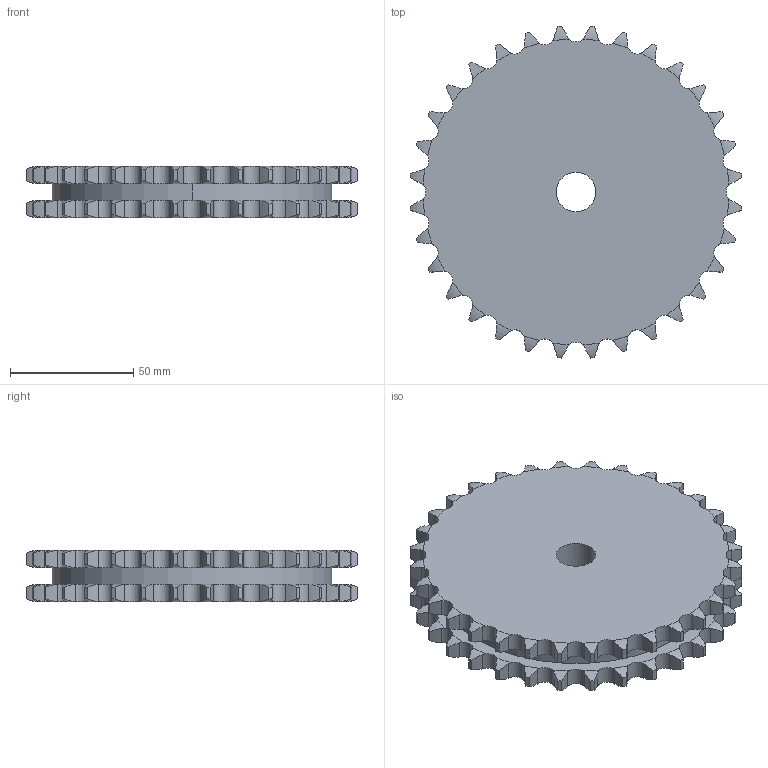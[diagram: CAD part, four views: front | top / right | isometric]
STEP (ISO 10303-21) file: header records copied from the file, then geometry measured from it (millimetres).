
FILE_DESCRIPTION((''),'2;1');
FILE_NAME('500-202-0032_PRT','2021-02-12T',('Brieden'),('Brieden'),'PRO/ENGINEER BY PARAMETRIC TECHNOLOGY CORPORATION, 2010160','PRO/ENGINEER BY PARAMETRIC TECHNOLOGY CORPORATION, 2010160','');
FILE_SCHEMA(('AUTOMOTIVE_DESIGN { 1 0 10303 214 1 1 1 1 }'));
Length unit declared in the file: millimetre
Products named in the file (1): 500-202-0032_PRT
Bounding box: 134.64 x 134.64 x 21 mm (x, y, z)
Volume: 244198.7 mm3; surface area: 41777.2 mm2
Topology: 1 solids, 1 shells, 392 faces, 1164 edges, 776 vertices
Faces by surface type: cylinder 260, torus 128, plane 4
Entity records: 18916 total; most frequent: CARTESIAN_POINT 5469, ORIENTED_EDGE 2328, DIRECTION 1828, PRESENTATION_STYLE_ASSIGNMENT 1165, STYLED_ITEM 1165, CURVE_STYLE 1164, EDGE_CURVE 1164, AXIS2_PLACEMENT_3D 784
